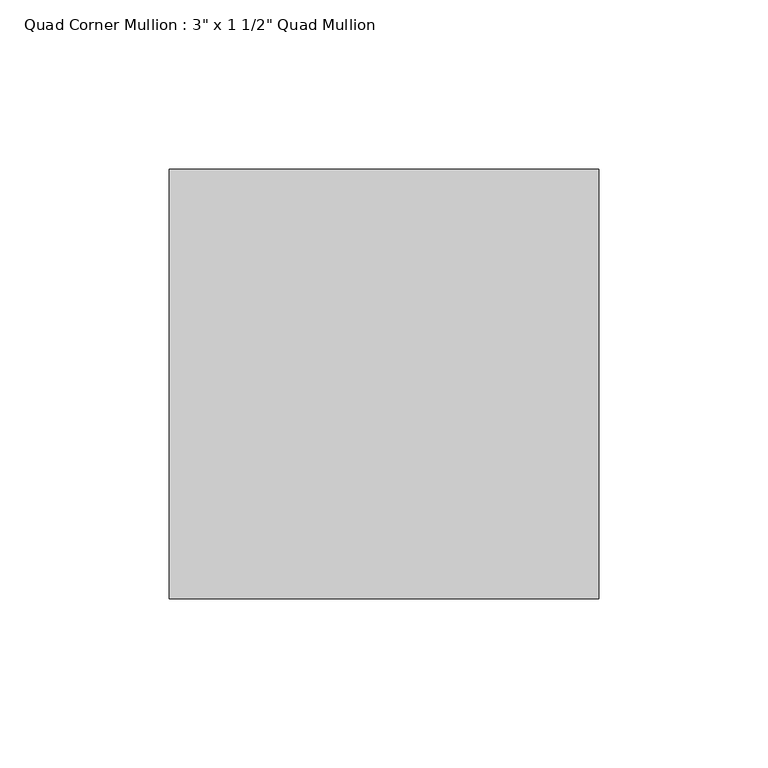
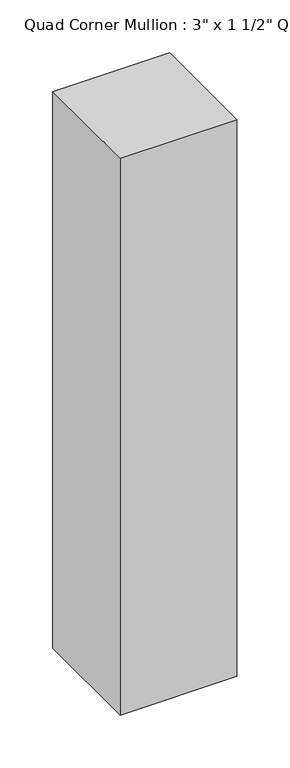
"""IFC4 building model written with IfcOpenShell, lengths in millimetres: member geometry."""

from ifc_helpers import new_model, si_unit, frame, origin, place, context, project, spatial, polyline, outline, extrude, source, transform, mapped, element, save


def member_1d60c77e(model_context):
    return source(origin(), model_context, "Body", "SweptSolid", [
        extrude(outline(polyline([(63.5, 63.5), (63.5, -63.5), (-63.5, -63.5), (-63.5, 63.5), (63.5, 63.5)])), frame((0.0, 0.0, -641.35), z_axis=(0.0, 0.0, 1.0), x_axis=(1.0, 0.0, 0.0)), (0.0, 0.0, 1.0), 641.35),
    ])


if __name__ == "__main__":
    model = new_model("IFC4")
    model_context = context("Model", 3, world=origin())
    ifc_project = project(units=[si_unit("LENGTHUNIT", "METRE", prefix="MILLI")], contexts=[model_context])
    site = spatial("IfcSite", under=ifc_project)
    building = spatial("IfcBuilding", under=site)
    placement = place(None, origin())
    member_shape = member_1d60c77e(model_context)
    element("IfcMember", 1, ObjectType="Quad Corner Mullion : 3\" x 1 1/2\" Quad Mullion", at=placement, inside=building, context=model_context, shape_type="MappedRepresentation", body=[
        mapped(member_shape, transform((0.0, 0.0, 0.0), x_axis=(1.0, 0.0, 0.0), y_axis=(0.0, 1.0, 0.0), z_axis=(0.0, 0.0, 1.0))),
    ])
    save(model, "model.ifc")
